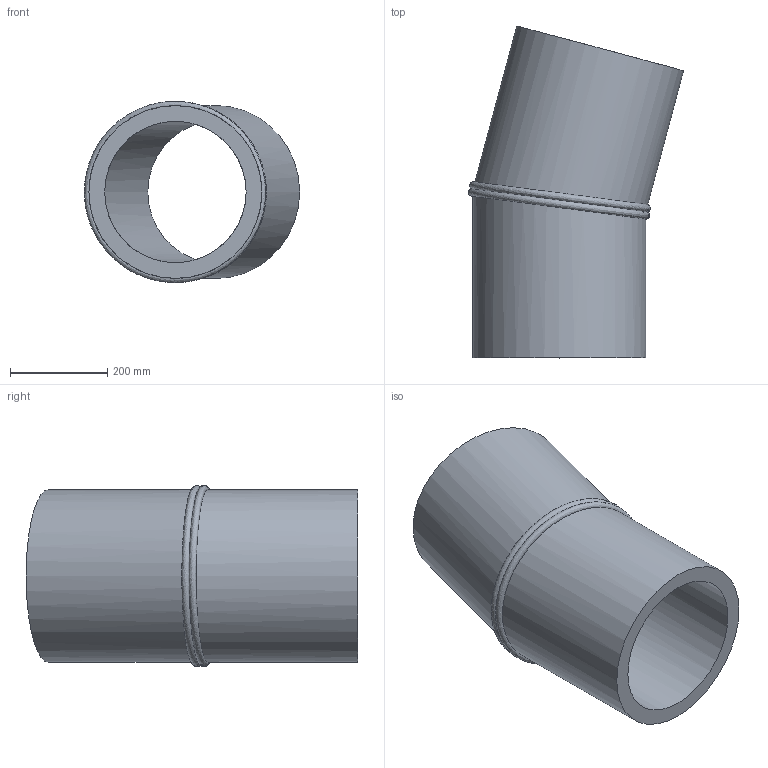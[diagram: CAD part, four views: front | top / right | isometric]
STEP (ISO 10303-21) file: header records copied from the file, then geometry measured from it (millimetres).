
FILE_DESCRIPTION(/* description */ ('Unknown'),/* implementation_level */ '2;1');
FILE_NAME(/* name */ 'Curva 15° a settore DE355 SDR11',/* time_stamp */ '2022-07-22T15:58:41+02:00',/* author */ ('Unknown'),/* organization */ ('Unknown'),/* preprocessor_version */ 'ST-DEVELOPER v18.102',/* originating_system */ 'Solid Edge',/* authorisation */ 'Unknown');
FILE_SCHEMA (('AUTOMOTIVE_DESIGN {1 0 10303 214 3 1 1}'));
Length unit declared in the file: millimetre
Products named in the file (2): Curva 15° a settore DE355 SDR11; Tubo x Gomito 15° DE355 SDR11
Assembly tree (2 placements, depth 2):
  Curva 15° a settore DE355 SDR11
    Tubo x Gomito 15° DE355 SDR11  x2
Bounding box: 442.03 x 681.66 x 371.95 mm (x, y, z)
Volume: 21353191.2 mm3; surface area: 1468600.9 mm2
Topology: 2 solids, 2 shells, 10 faces, 20 edges, 14 vertices
Faces by surface type: cylinder 4, plane 4, bspline 2
Full cylindrical faces by diameter (mm): 290.6 x2, 355 x2
Entity records: 759 total; most frequent: CARTESIAN_POINT 622, DIRECTION 20, ORIENTED_EDGE 10, EDGE_LOOP 10, FACE_BOUND 10, AXIS2_PLACEMENT_3D 10, EDGE_CURVE 5, VERTEX_POINT 5
